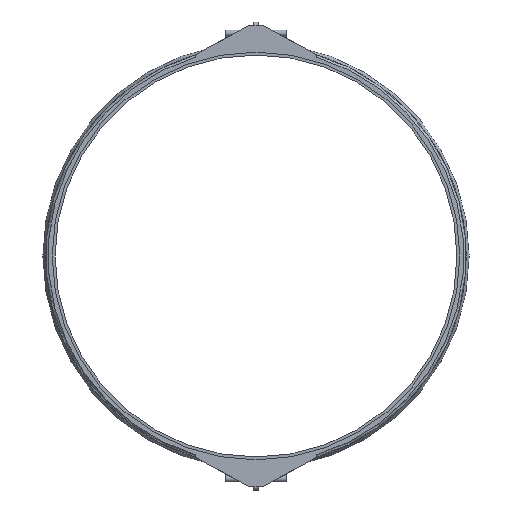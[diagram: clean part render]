
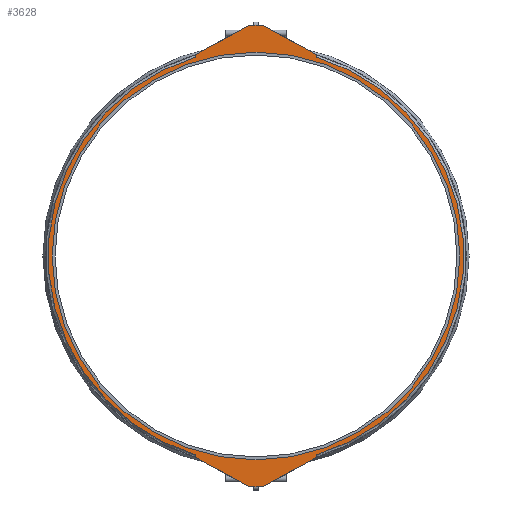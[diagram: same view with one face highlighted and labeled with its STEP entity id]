
A CAD part, left-side view. The second image highlights one B-rep face of the part: STEP entity #3628.
In plain terms, the highlighted planar face has unit normal (-1, 0, 0).
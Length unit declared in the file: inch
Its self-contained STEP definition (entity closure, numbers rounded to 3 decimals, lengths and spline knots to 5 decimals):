
#110=FACE_BOUND('',#658,.T.);
#246=PLANE('',#3949);
#437=FACE_OUTER_BOUND('',#657,.T.);
#657=EDGE_LOOP('',(#3180,#3181,#3182,#3183,#3184,#3185,#3186,#3187,#3188,
#3189,#3190,#3191,#3192,#3193,#3194,#3195,#3196,#3197,#3198,#3199));
#658=EDGE_LOOP('',(#3200,#3201));
#777=LINE('',#5235,#1120);
#785=LINE('',#5265,#1128);
#790=LINE('',#5289,#1133);
#793=LINE('',#5326,#1136);
#794=LINE('',#5345,#1137);
#948=LINE('',#5940,#1291);
#951=LINE('',#5945,#1294);
#960=LINE('',#5971,#1303);
#962=LINE('',#5978,#1305);
#966=LINE('',#5987,#1309);
#1120=VECTOR('',#4241,0.3937);
#1128=VECTOR('',#4263,0.3937);
#1133=VECTOR('',#4278,0.3937);
#1136=VECTOR('',#4291,0.3937);
#1137=VECTOR('',#4294,0.3937);
#1291=VECTOR('',#4684,0.3937);
#1294=VECTOR('',#4689,0.3937);
#1303=VECTOR('',#4714,0.3937);
#1305=VECTOR('',#4722,0.3937);
#1309=VECTOR('',#4732,0.3937);
#1369=CIRCLE('',#3736,0.063);
#1370=CIRCLE('',#3738,0.125);
#1371=CIRCLE('',#3741,0.125);
#1372=CIRCLE('',#3743,0.063);
#1374=CIRCLE('',#3748,27.535);
#1375=CIRCLE('',#3750,27.535);
#1414=CIRCLE('',#3871,0.063);
#1415=CIRCLE('',#3874,0.063);
#1416=CIRCLE('',#3877,0.125);
#1417=CIRCLE('',#3880,0.125);
#1453=CIRCLE('',#3947,27.);
#1454=CIRCLE('',#3948,27.);
#1550=VERTEX_POINT('',#5232);
#1551=VERTEX_POINT('',#5234);
#1561=VERTEX_POINT('',#5262);
#1562=VERTEX_POINT('',#5264);
#1564=VERTEX_POINT('',#5279);
#1565=VERTEX_POINT('',#5283);
#1566=VERTEX_POINT('',#5287);
#1568=VERTEX_POINT('',#5305);
#1569=VERTEX_POINT('',#5309);
#1570=VERTEX_POINT('',#5328);
#1574=VERTEX_POINT('',#5365);
#1575=VERTEX_POINT('',#5384);
#1713=VERTEX_POINT('',#5939);
#1714=VERTEX_POINT('',#5943);
#1722=VERTEX_POINT('',#5965);
#1723=VERTEX_POINT('',#5969);
#1724=VERTEX_POINT('',#5973);
#1725=VERTEX_POINT('',#5977);
#1726=VERTEX_POINT('',#5981);
#1727=VERTEX_POINT('',#5986);
#1769=VERTEX_POINT('',#6131);
#1770=VERTEX_POINT('',#6133);
#1910=EDGE_CURVE('',#1550,#1551,#777,.T.);
#1923=EDGE_CURVE('',#1561,#1562,#785,.T.);
#1926=EDGE_CURVE('',#1551,#1564,#1369,.T.);
#1929=EDGE_CURVE('',#1565,#1550,#1370,.T.);
#1931=EDGE_CURVE('',#1566,#1565,#790,.T.);
#1933=EDGE_CURVE('',#1562,#1566,#1371,.T.);
#1936=EDGE_CURVE('',#1568,#1561,#1372,.T.);
#1938=EDGE_CURVE('',#1569,#1568,#793,.T.);
#1940=EDGE_CURVE('',#1564,#1570,#794,.T.);
#1945=EDGE_CURVE('',#1569,#1574,#1374,.T.);
#1946=EDGE_CURVE('',#1575,#1570,#1375,.T.);
#2150=EDGE_CURVE('',#1713,#1575,#948,.T.);
#2153=EDGE_CURVE('',#1574,#1714,#951,.T.);
#2164=EDGE_CURVE('',#1714,#1722,#1414,.T.);
#2166=EDGE_CURVE('',#1722,#1723,#960,.T.);
#2167=EDGE_CURVE('',#1724,#1713,#1415,.T.);
#2169=EDGE_CURVE('',#1725,#1724,#962,.T.);
#2171=EDGE_CURVE('',#1726,#1725,#1416,.T.);
#2174=EDGE_CURVE('',#1727,#1726,#966,.T.);
#2176=EDGE_CURVE('',#1723,#1727,#1417,.T.);
#2246=EDGE_CURVE('',#1770,#1769,#1453,.T.);
#2247=EDGE_CURVE('',#1769,#1770,#1454,.T.);
#3180=ORIENTED_EDGE('',*,*,#1946,.T.);
#3181=ORIENTED_EDGE('',*,*,#1940,.F.);
#3182=ORIENTED_EDGE('',*,*,#1926,.F.);
#3183=ORIENTED_EDGE('',*,*,#1910,.F.);
#3184=ORIENTED_EDGE('',*,*,#1929,.F.);
#3185=ORIENTED_EDGE('',*,*,#1931,.F.);
#3186=ORIENTED_EDGE('',*,*,#1933,.F.);
#3187=ORIENTED_EDGE('',*,*,#1923,.F.);
#3188=ORIENTED_EDGE('',*,*,#1936,.F.);
#3189=ORIENTED_EDGE('',*,*,#1938,.F.);
#3190=ORIENTED_EDGE('',*,*,#1945,.T.);
#3191=ORIENTED_EDGE('',*,*,#2153,.T.);
#3192=ORIENTED_EDGE('',*,*,#2164,.T.);
#3193=ORIENTED_EDGE('',*,*,#2166,.T.);
#3194=ORIENTED_EDGE('',*,*,#2176,.T.);
#3195=ORIENTED_EDGE('',*,*,#2174,.T.);
#3196=ORIENTED_EDGE('',*,*,#2171,.T.);
#3197=ORIENTED_EDGE('',*,*,#2169,.T.);
#3198=ORIENTED_EDGE('',*,*,#2167,.T.);
#3199=ORIENTED_EDGE('',*,*,#2150,.T.);
#3200=ORIENTED_EDGE('',*,*,#2246,.T.);
#3201=ORIENTED_EDGE('',*,*,#2247,.T.);
#3628=ADVANCED_FACE('',(#437,#110),#246,.T.);
#3736=AXIS2_PLACEMENT_3D('',#5280,#4267,#4268);
#3738=AXIS2_PLACEMENT_3D('',#5285,#4273,#4274);
#3741=AXIS2_PLACEMENT_3D('',#5292,#4282,#4283);
#3743=AXIS2_PLACEMENT_3D('',#5307,#4287,#4288);
#3748=AXIS2_PLACEMENT_3D('',#5382,#4299,#4300);
#3750=AXIS2_PLACEMENT_3D('',#5385,#4303,#4304);
#3871=AXIS2_PLACEMENT_3D('',#5967,#4709,#4710);
#3874=AXIS2_PLACEMENT_3D('',#5974,#4717,#4718);
#3877=AXIS2_PLACEMENT_3D('',#5982,#4726,#4727);
#3880=AXIS2_PLACEMENT_3D('',#5990,#4736,#4737);
#3947=AXIS2_PLACEMENT_3D('',#6134,#4904,#4905);
#3948=AXIS2_PLACEMENT_3D('',#6135,#4906,#4907);
#3949=AXIS2_PLACEMENT_3D('',#6136,#4908,#4909);
#4241=DIRECTION('',(0.,0.873,0.487));
#4263=DIRECTION('',(0.,0.873,-0.487));
#4267=DIRECTION('center_axis',(1.,0.,0.));
#4268=DIRECTION('ref_axis',(0.,-1.,0.));
#4273=DIRECTION('center_axis',(1.,0.,0.));
#4274=DIRECTION('ref_axis',(0.,-0.487,0.873));
#4278=DIRECTION('',(0.,1.,0.));
#4282=DIRECTION('center_axis',(1.,0.,0.));
#4283=DIRECTION('ref_axis',(0.,0.,1.));
#4287=DIRECTION('center_axis',(1.,0.,0.));
#4288=DIRECTION('ref_axis',(0.,0.487,0.873));
#4291=DIRECTION('',(0.,0.,-1.));
#4294=DIRECTION('',(0.,0.,1.));
#4299=DIRECTION('center_axis',(-1.,0.,0.));
#4300=DIRECTION('ref_axis',(0.,0.,1.));
#4303=DIRECTION('center_axis',(-1.,0.,0.));
#4304=DIRECTION('ref_axis',(0.,0.,1.));
#4684=DIRECTION('',(0.,0.,-1.));
#4689=DIRECTION('',(0.,0.,1.));
#4709=DIRECTION('center_axis',(-1.,0.,0.));
#4710=DIRECTION('ref_axis',(0.,0.487,-0.873));
#4714=DIRECTION('',(0.,0.873,0.487));
#4717=DIRECTION('center_axis',(-1.,0.,0.));
#4718=DIRECTION('ref_axis',(0.,-1.,0.));
#4722=DIRECTION('',(0.,0.873,-0.487));
#4726=DIRECTION('center_axis',(-1.,0.,0.));
#4727=DIRECTION('ref_axis',(0.,-0.487,-0.873));
#4732=DIRECTION('',(0.,1.,0.));
#4736=DIRECTION('center_axis',(-1.,0.,0.));
#4737=DIRECTION('ref_axis',(0.,0.,-1.));
#4904=DIRECTION('center_axis',(1.,0.,0.));
#4905=DIRECTION('ref_axis',(0.,0.,-1.));
#4906=DIRECTION('center_axis',(1.,0.,0.));
#4907=DIRECTION('ref_axis',(0.,0.,-1.));
#4908=DIRECTION('center_axis',(-1.,0.,0.));
#4909=DIRECTION('ref_axis',(0.,0.,1.));
#5232=CARTESIAN_POINT('',(-3.315,1.02838,-30.53418));
#5234=CARTESIAN_POINT('',(-3.315,7.96768,-26.66524));
#5235=CARTESIAN_POINT('',(-3.315,1.02838,-30.53418));
#5262=CARTESIAN_POINT('',(-3.315,-7.96768,-26.66524));
#5264=CARTESIAN_POINT('',(-3.315,-1.02838,-30.53418));
#5265=CARTESIAN_POINT('',(-3.315,-7.96768,-26.66524));
#5279=CARTESIAN_POINT('',(-3.315,8.,-26.61022));
#5280=CARTESIAN_POINT('Origin',(-3.315,7.937,-26.61022));
#5283=CARTESIAN_POINT('',(-3.315,0.96751,-30.55));
#5285=CARTESIAN_POINT('Origin',(-3.315,0.96751,-30.425));
#5287=CARTESIAN_POINT('',(-3.315,-0.96751,-30.55));
#5289=CARTESIAN_POINT('',(-3.315,0.,-30.55));
#5292=CARTESIAN_POINT('Origin',(-3.315,-0.96751,-30.425));
#5305=CARTESIAN_POINT('',(-3.315,-8.,-26.61022));
#5307=CARTESIAN_POINT('Origin',(-3.315,-7.937,-26.61022));
#5309=CARTESIAN_POINT('',(-3.315,-8.,-26.34722));
#5326=CARTESIAN_POINT('',(-3.315,-8.,-26.34722));
#5328=CARTESIAN_POINT('',(-3.315,8.,-26.34722));
#5345=CARTESIAN_POINT('',(-3.315,8.,-26.61022));
#5365=CARTESIAN_POINT('',(-3.315,-8.,26.34722));
#5382=CARTESIAN_POINT('Origin',(-3.315,0.,0.));
#5384=CARTESIAN_POINT('',(-3.315,8.,26.34722));
#5385=CARTESIAN_POINT('Origin',(-3.315,0.,0.));
#5939=CARTESIAN_POINT('',(-3.315,8.,26.61022));
#5940=CARTESIAN_POINT('',(-3.315,8.,26.61022));
#5943=CARTESIAN_POINT('',(-3.315,-8.,26.61022));
#5945=CARTESIAN_POINT('',(-3.315,-8.,26.34722));
#5965=CARTESIAN_POINT('',(-3.315,-7.96768,26.66524));
#5967=CARTESIAN_POINT('Origin',(-3.315,-7.937,26.61022));
#5969=CARTESIAN_POINT('',(-3.315,-1.02838,30.53418));
#5971=CARTESIAN_POINT('',(-3.315,-7.96768,26.66524));
#5973=CARTESIAN_POINT('',(-3.315,7.96768,26.66524));
#5974=CARTESIAN_POINT('Origin',(-3.315,7.937,26.61022));
#5977=CARTESIAN_POINT('',(-3.315,1.02838,30.53418));
#5978=CARTESIAN_POINT('',(-3.315,1.02838,30.53418));
#5981=CARTESIAN_POINT('',(-3.315,0.96751,30.55));
#5982=CARTESIAN_POINT('Origin',(-3.315,0.96751,30.425));
#5986=CARTESIAN_POINT('',(-3.315,-0.96751,30.55));
#5987=CARTESIAN_POINT('',(-3.315,0.,30.55));
#5990=CARTESIAN_POINT('Origin',(-3.315,-0.96751,30.425));
#6131=CARTESIAN_POINT('',(-3.315,-27.,0.));
#6133=CARTESIAN_POINT('',(-3.315,27.,0.));
#6134=CARTESIAN_POINT('Origin',(-3.315,0.,0.));
#6135=CARTESIAN_POINT('Origin',(-3.315,0.,0.));
#6136=CARTESIAN_POINT('Origin',(-3.315,27.85,0.));
